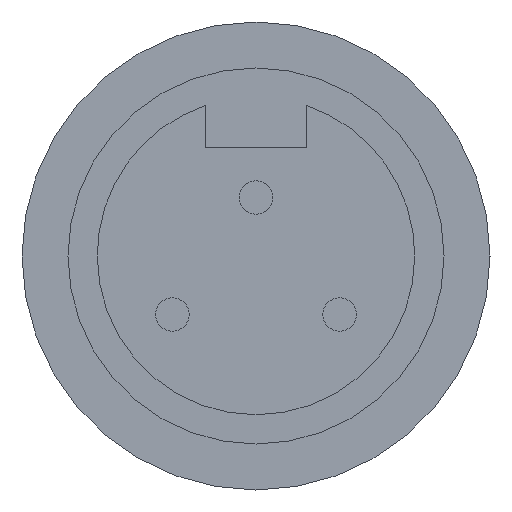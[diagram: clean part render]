
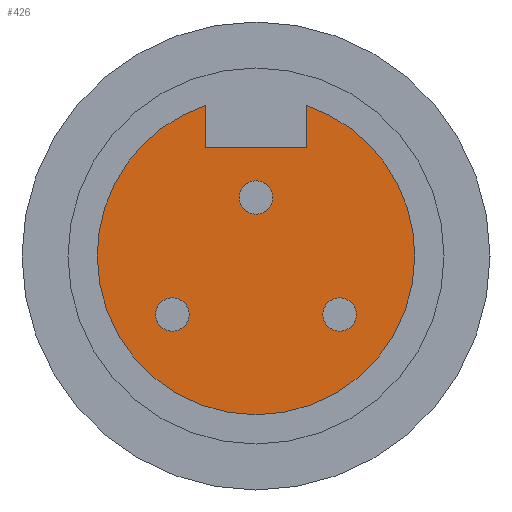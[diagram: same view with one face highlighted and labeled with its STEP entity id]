
A CAD part, left-side view. The second image highlights one B-rep face of the part: STEP entity #426.
In plain terms, the highlighted planar face has unit normal (-1, 0, 0).
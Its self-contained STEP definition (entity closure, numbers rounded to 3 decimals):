
#11 = VERTEX_POINT ( 'NONE', #498 ) ;
#16 = VERTEX_POINT ( 'NONE', #474 ) ;
#18 = EDGE_CURVE ( 'NONE', #16, #11, #469, .T. ) ;
#193 = EDGE_CURVE ( 'NONE', #446, #248, #1131, .T. ) ;
#205 = EDGE_CURVE ( 'NONE', #206, #16, #1031, .T. ) ;
#206 = VERTEX_POINT ( 'NONE', #1212 ) ;
#222 = EDGE_CURVE ( 'NONE', #423, #249, #1179, .T. ) ;
#232 = VERTEX_POINT ( 'NONE', #1368 ) ;
#248 = VERTEX_POINT ( 'NONE', #1204 ) ;
#249 = VERTEX_POINT ( 'NONE', #1203 ) ;
#260 = EDGE_CURVE ( 'NONE', #261, #232, #1470, .T. ) ;
#261 = VERTEX_POINT ( 'NONE', #1466 ) ;
#296 = EDGE_CURVE ( 'NONE', #232, #261, #1413, .T. ) ;
#338 = EDGE_CURVE ( 'NONE', #248, #446, #1592, .T. ) ;
#369 = VERTEX_POINT ( 'NONE', #1734 ) ;
#371 = VERTEX_POINT ( 'NONE', #1691 ) ;
#374 = EDGE_CURVE ( 'NONE', #428, #371, #1711, .T. ) ;
#377 = EDGE_CURVE ( 'NONE', #249, #423, #1580, .T. ) ;
#380 = EDGE_CURVE ( 'NONE', #371, #369, #1729, .T. ) ;
#385 = ORIENTED_EDGE ( 'NONE', *, *, #205, .T. ) ;
#386 = ORIENTED_EDGE ( 'NONE', *, *, #18, .T. ) ;
#402 = DIRECTION ( 'NONE',  ( 0., 1., 0. ) ) ;
#403 = EDGE_LOOP ( 'NONE', ( #385, #386, #441, #479, #480, #415 ) ) ;
#415 = ORIENTED_EDGE ( 'NONE', *, *, #425, .T. ) ;
#416 = EDGE_LOOP ( 'NONE', ( #417, #418 ) ) ;
#417 = ORIENTED_EDGE ( 'NONE', *, *, #377, .T. ) ;
#418 = ORIENTED_EDGE ( 'NONE', *, *, #222, .T. ) ;
#419 = EDGE_LOOP ( 'NONE', ( #420, #421 ) ) ;
#420 = ORIENTED_EDGE ( 'NONE', *, *, #338, .T. ) ;
#421 = ORIENTED_EDGE ( 'NONE', *, *, #193, .T. ) ;
#423 = VERTEX_POINT ( 'NONE', #1570 ) ;
#425 = EDGE_CURVE ( 'NONE', #369, #206, #1689, .T. ) ;
#426 = ADVANCED_FACE ( 'NONE', ( #1685, #1684, #1683, #1682 ), #1667, .T. ) ;
#428 = VERTEX_POINT ( 'NONE', #1630 ) ;
#441 = ORIENTED_EDGE ( 'NONE', *, *, #442, .T. ) ;
#442 = EDGE_CURVE ( 'NONE', #11, #428, #1792, .T. ) ;
#446 = VERTEX_POINT ( 'NONE', #1834 ) ;
#455 = ORIENTED_EDGE ( 'NONE', *, *, #296, .T. ) ;
#456 = ORIENTED_EDGE ( 'NONE', *, *, #260, .T. ) ;
#466 = DIRECTION ( 'NONE',  ( -1., 0., 0. ) ) ;
#467 = CARTESIAN_POINT ( 'NONE',  ( -66.675, 0., 0. ) ) ;
#468 = AXIS2_PLACEMENT_3D ( 'NONE', #467, #466, #402 ) ;
#469 = CIRCLE ( 'NONE', #468, 7.541 ) ;
#474 = CARTESIAN_POINT ( 'NONE',  ( -66.675, 7.541, 0. ) ) ;
#476 = EDGE_LOOP ( 'NONE', ( #455, #456 ) ) ;
#479 = ORIENTED_EDGE ( 'NONE', *, *, #374, .T. ) ;
#480 = ORIENTED_EDGE ( 'NONE', *, *, #380, .T. ) ;
#498 = CARTESIAN_POINT ( 'NONE',  ( -66.675, -7.541, 0. ) ) ;
#1027 = DIRECTION ( 'NONE',  ( 0., 1., 0. ) ) ;
#1028 = DIRECTION ( 'NONE',  ( -1., 0., 0. ) ) ;
#1029 = CARTESIAN_POINT ( 'NONE',  ( -66.675, 0., 0. ) ) ;
#1030 = AXIS2_PLACEMENT_3D ( 'NONE', #1029, #1028, #1027 ) ;
#1031 = CIRCLE ( 'NONE', #1030, 7.541 ) ;
#1076 = DIRECTION ( 'NONE',  ( 0., -1., 0. ) ) ;
#1077 = DIRECTION ( 'NONE',  ( 1., 0., 0. ) ) ;
#1078 = CARTESIAN_POINT ( 'NONE',  ( -66.675, -3.969, -2.778 ) ) ;
#1079 = AXIS2_PLACEMENT_3D ( 'NONE', #1078, #1077, #1076 ) ;
#1131 = CIRCLE ( 'NONE', #1079, 0.794 ) ;
#1175 = DIRECTION ( 'NONE',  ( 0., -1., 0. ) ) ;
#1176 = DIRECTION ( 'NONE',  ( 1., 0., 0. ) ) ;
#1177 = CARTESIAN_POINT ( 'NONE',  ( -66.675, 0., 2.778 ) ) ;
#1178 = AXIS2_PLACEMENT_3D ( 'NONE', #1177, #1176, #1175 ) ;
#1179 = CIRCLE ( 'NONE', #1178, 0.794 ) ;
#1203 = CARTESIAN_POINT ( 'NONE',  ( -66.675, -0.794, 2.778 ) ) ;
#1204 = CARTESIAN_POINT ( 'NONE',  ( -66.675, -4.763, -2.778 ) ) ;
#1212 = CARTESIAN_POINT ( 'NONE',  ( -66.675, 2.381, 7.155 ) ) ;
#1368 = CARTESIAN_POINT ( 'NONE',  ( -66.675, 3.175, -2.778 ) ) ;
#1403 = CARTESIAN_POINT ( 'NONE',  ( -66.675, 3.969, -2.778 ) ) ;
#1406 = DIRECTION ( 'NONE',  ( 1., 0., 0. ) ) ;
#1407 = CARTESIAN_POINT ( 'NONE',  ( -66.675, 3.969, -2.778 ) ) ;
#1408 = AXIS2_PLACEMENT_3D ( 'NONE', #1407, #1406, #1539 ) ;
#1413 = CIRCLE ( 'NONE', #1408, 0.794 ) ;
#1466 = CARTESIAN_POINT ( 'NONE',  ( -66.675, 4.762, -2.778 ) ) ;
#1467 = DIRECTION ( 'NONE',  ( 0., -1., 0. ) ) ;
#1468 = DIRECTION ( 'NONE',  ( 1., 0., 0. ) ) ;
#1469 = AXIS2_PLACEMENT_3D ( 'NONE', #1403, #1468, #1467 ) ;
#1470 = CIRCLE ( 'NONE', #1469, 0.794 ) ;
#1539 = DIRECTION ( 'NONE',  ( 0., -1., 0. ) ) ;
#1570 = CARTESIAN_POINT ( 'NONE',  ( -66.675, 0.794, 2.778 ) ) ;
#1577 = DIRECTION ( 'NONE',  ( 1., 0., 0. ) ) ;
#1578 = CARTESIAN_POINT ( 'NONE',  ( -66.675, 0., 2.778 ) ) ;
#1579 = AXIS2_PLACEMENT_3D ( 'NONE', #1578, #1577, #1732 ) ;
#1580 = CIRCLE ( 'NONE', #1579, 0.794 ) ;
#1592 = CIRCLE ( 'NONE', #1632, 0.794 ) ;
#1630 = CARTESIAN_POINT ( 'NONE',  ( -66.675, -2.381, 7.155 ) ) ;
#1631 = CARTESIAN_POINT ( 'NONE',  ( -66.675, -3.969, -2.778 ) ) ;
#1632 = AXIS2_PLACEMENT_3D ( 'NONE', #1631, #1751, #1750 ) ;
#1663 = DIRECTION ( 'NONE',  ( 0., -1., 0. ) ) ;
#1664 = DIRECTION ( 'NONE',  ( -1., 0., 0. ) ) ;
#1665 = CARTESIAN_POINT ( 'NONE',  ( -66.675, -2.381, 5.159 ) ) ;
#1666 = AXIS2_PLACEMENT_3D ( 'NONE', #1665, #1664, #1663 ) ;
#1667 = PLANE ( 'NONE',  #1666 ) ;
#1682 = FACE_BOUND ( 'NONE', #476, .T. ) ;
#1683 = FACE_BOUND ( 'NONE', #419, .T. ) ;
#1684 = FACE_BOUND ( 'NONE', #416, .T. ) ;
#1685 = FACE_OUTER_BOUND ( 'NONE', #403, .T. ) ;
#1686 = DIRECTION ( 'NONE',  ( 0., 0., 1. ) ) ;
#1687 = VECTOR ( 'NONE', #1686, 1000. ) ;
#1688 = CARTESIAN_POINT ( 'NONE',  ( -66.675, 2.381, 5.159 ) ) ;
#1689 = LINE ( 'NONE', #1688, #1687 ) ;
#1691 = CARTESIAN_POINT ( 'NONE',  ( -66.675, -2.381, 5.159 ) ) ;
#1708 = DIRECTION ( 'NONE',  ( 0., 0., -1. ) ) ;
#1709 = VECTOR ( 'NONE', #1708, 1000. ) ;
#1710 = CARTESIAN_POINT ( 'NONE',  ( -66.675, -2.381, 5.159 ) ) ;
#1711 = LINE ( 'NONE', #1710, #1709 ) ;
#1726 = DIRECTION ( 'NONE',  ( 0., 1., 0. ) ) ;
#1727 = VECTOR ( 'NONE', #1726, 1000. ) ;
#1728 = CARTESIAN_POINT ( 'NONE',  ( -66.675, -2.381, 5.159 ) ) ;
#1729 = LINE ( 'NONE', #1728, #1727 ) ;
#1732 = DIRECTION ( 'NONE',  ( 0., -1., 0. ) ) ;
#1734 = CARTESIAN_POINT ( 'NONE',  ( -66.675, 2.381, 5.159 ) ) ;
#1750 = DIRECTION ( 'NONE',  ( 0., -1., 0. ) ) ;
#1751 = DIRECTION ( 'NONE',  ( 1., 0., 0. ) ) ;
#1788 = DIRECTION ( 'NONE',  ( 0., 1., 0. ) ) ;
#1789 = DIRECTION ( 'NONE',  ( -1., 0., 0. ) ) ;
#1790 = CARTESIAN_POINT ( 'NONE',  ( -66.675, 0., 0. ) ) ;
#1791 = AXIS2_PLACEMENT_3D ( 'NONE', #1790, #1789, #1788 ) ;
#1792 = CIRCLE ( 'NONE', #1791, 7.541 ) ;
#1834 = CARTESIAN_POINT ( 'NONE',  ( -66.675, -3.175, -2.778 ) ) ;
